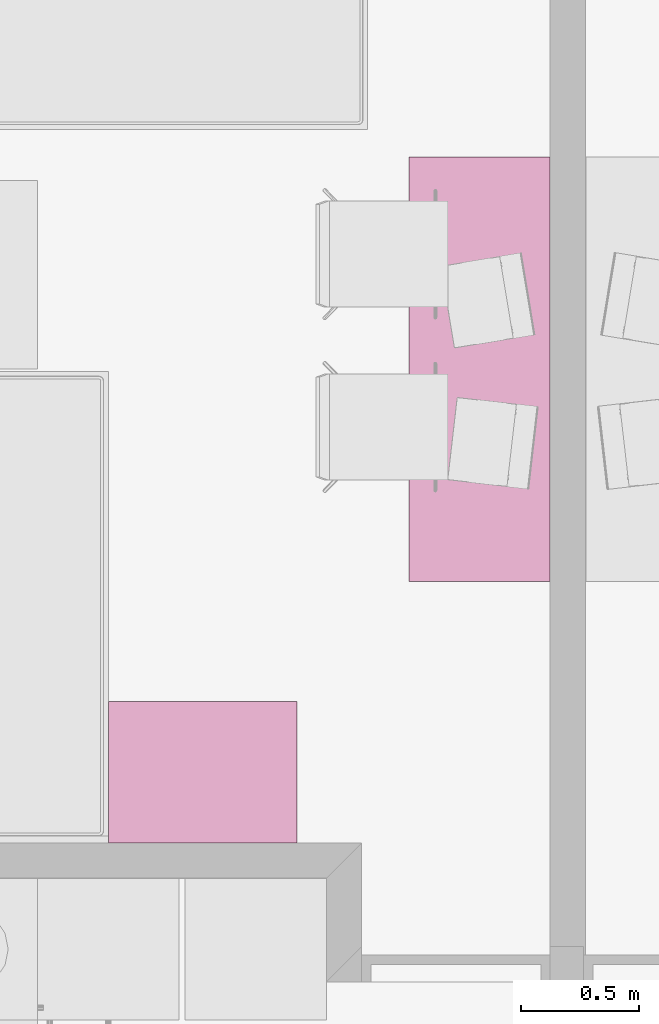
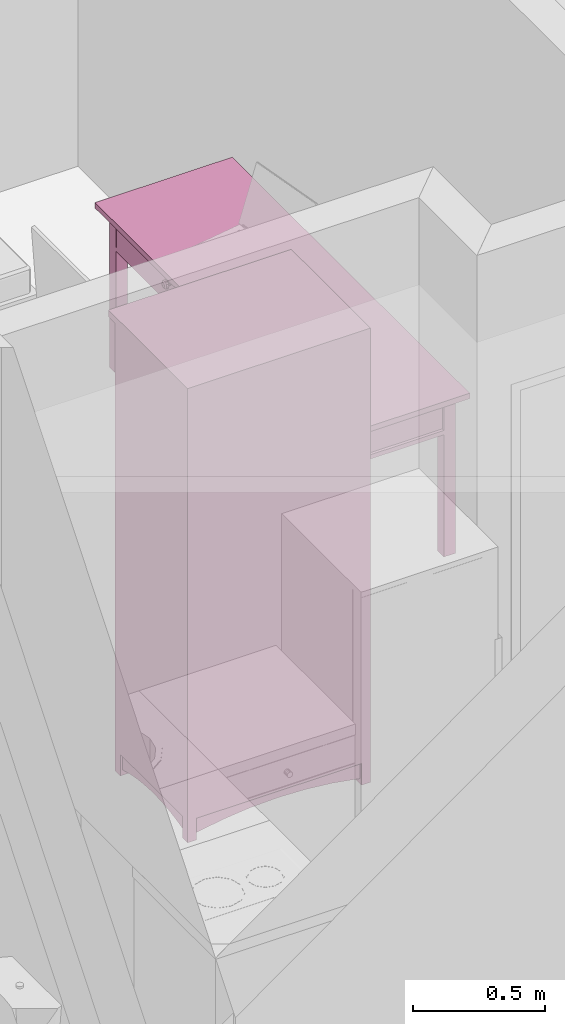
# One storey, part 143 of 172: 2 furnishings.
"""IFC2X3 building model written with IfcOpenShell, lengths in millimetres."""

from ifc_helpers import new_model, entity, si_unit, converted_unit, money_unit, direction, frame, origin_with_axes, place, context, subcontext, project, spatial, faceted_brep, source, transform, mapped, material, material_list, type_object, element, save


model = new_model("IFC2X3")

# Units and contexts
model_context = context("Model", 3, precision=1e-05, world=origin_with_axes(), true_north=direction((0.0, 1.0)))
body_context = subcontext(model_context, "Body", "Model", "MODEL_VIEW")
ifc_project = project(units=[si_unit("LENGTHUNIT", "METRE", prefix="MILLI"), si_unit("AREAUNIT", "SQUARE_METRE"), si_unit("VOLUMEUNIT", "CUBIC_METRE"), converted_unit("PLANEANGLEUNIT", "DEGREE", entity("IfcPlaneAngleMeasure", 0.0174532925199), si_unit("PLANEANGLEUNIT", "RADIAN"), dimensions=[0, 0, 0, 0, 0, 0, 0]), si_unit("SOLIDANGLEUNIT", "STERADIAN"), money_unit("USD"), converted_unit("TIMEUNIT", "Year", entity("IfcTimeMeasure", 31556926.0), si_unit("TIMEUNIT", "SECOND"), dimensions=[0, 0, 0, 0, 0, 0, 0]), si_unit("MASSUNIT", "GRAM"), si_unit("THERMODYNAMICTEMPERATUREUNIT", "DEGREE_CELSIUS"), si_unit("LUMINOUSINTENSITYUNIT", "LUMEN")], contexts=[model_context])

# Site, building, storey
site_placement = place(None, origin_with_axes())
site = spatial("IfcSite", under=ifc_project, at=site_placement, Name="Site", CompositionType="ELEMENT")
building_placement = place(site_placement, origin_with_axes())
building = spatial("IfcBuilding", under=site, at=building_placement, Name="Building", CompositionType="ELEMENT")
storey_placement = place(building_placement, frame((0.0, 0.0, 3200.0), z_axis=(0.0, 0.0, 1.0), x_axis=(1.0, 0.0, 0.0)))
storey = spatial("IfcBuildingStorey", under=building, at=storey_placement, Name="3KORRUS", CompositionType="ELEMENT", Elevation=3200.0)

# Furnishings
ifc_material = material(Name="Background")
ifc_material_list = material_list([ifc_material])
furnishing_element_type_1 = type_object("IfcFurnishingElementType", Name="Cupboard 19")
shared_shape_1 = source(origin_with_axes(), body_context, "Body", "Brep", [
    faceted_brep([(780.0, 600.0, 120.0), (780.0, 600.0, 2050.0), (780.0, 580.0, 2050.0), (780.0, 580.0, 120.0), (20.0, 600.0, 120.0), (20.0, 600.0, 2050.0), (20.0, 580.0, 2050.0), (20.0, 580.0, 120.0)], [[[0, 1, 2, 3]], [[4, 5, 1, 0]], [[1, 5, 6, 2]], [[3, 2, 6, 7]], [[0, 3, 7, 4]], [[7, 6, 5, 4]]]),
    faceted_brep([(0.0, 50.0, 100.0), (0.0, 600.0, 100.0), (20.0, 600.0, 100.0), (20.0, 50.0, 100.0), (0.0, 50.0, 2070.0), (0.0, 600.0, 2070.0), (20.0, 600.0, 2070.0), (20.0, 50.0, 2070.0)], [[[0, 1, 2, 3]], [[0, 4, 5, 1]], [[1, 5, 6, 2]], [[2, 6, 7, 3]], [[3, 7, 4, 0]], [[7, 6, 5, 4]]]),
    faceted_brep([(780.0, 50.0, 100.0), (780.0, 600.0, 100.0), (800.0, 600.0, 100.0), (800.0, 50.0, 100.0), (780.0, 50.0, 2070.0), (780.0, 600.0, 2070.0), (800.0, 600.0, 2070.0), (800.0, 50.0, 2070.0)], [[[0, 1, 2, 3]], [[0, 4, 5, 1]], [[1, 5, 6, 2]], [[2, 6, 7, 3]], [[3, 7, 4, 0]], [[7, 6, 5, 4]]]),
    faceted_brep([(20.0, 50.0, 100.0), (20.0, 600.0, 100.0), (780.0, 600.0, 100.0), (780.0, 50.0, 100.0), (20.0, 50.0, 120.0), (20.0, 600.0, 120.0), (780.0, 600.0, 120.0), (780.0, 50.0, 120.0)], [[[0, 1, 2, 3]], [[0, 4, 5, 1]], [[1, 5, 6, 2]], [[2, 6, 7, 3]], [[3, 7, 4, 0]], [[7, 6, 5, 4]]]),
    faceted_brep([(20.0, 50.0, 2050.0), (20.0, 600.0, 2050.0), (780.0, 600.0, 2050.0), (780.0, 50.0, 2050.0), (20.0, 50.0, 2070.0), (20.0, 600.0, 2070.0), (780.0, 600.0, 2070.0), (780.0, 50.0, 2070.0)], [[[0, 1, 2, 3]], [[0, 4, 5, 1]], [[1, 5, 6, 2]], [[2, 6, 7, 3]], [[3, 7, 4, 0]], [[7, 6, 5, 4]]]),
    faceted_brep([(0.0, 600.0, 2070.0), (0.0, 0.0, 2070.0), (0.0, 0.0, 2100.0), (0.0, 600.0, 2100.0), (800.0, 600.0, 2070.0), (800.0, 0.0, 2070.0), (800.0, 0.0, 2100.0), (800.0, 600.0, 2100.0)], [[[0, 1, 2, 3]], [[0, 4, 5, 1]], [[1, 5, 6, 2]], [[3, 2, 6, 7]], [[4, 0, 3, 7]], [[5, 4, 7, 6]]]),
    faceted_brep([(760.0, 590.0, 25.0), (760.0, 570.0, 25.0), (640.962, 570.0, 45.8), (640.962, 590.0, 45.8), (760.0, 590.0, 100.0), (760.0, 570.0, 100.0), (40.0, 570.0, 100.0), (40.0, 570.0, 25.0), (159.038, 570.0, 45.8), (279.23, 570.0, 58.32), (400.0, 570.0, 62.5), (520.77, 570.0, 58.32), (520.77, 590.0, 58.32), (400.0, 590.0, 62.5), (279.23, 590.0, 58.32), (159.038, 590.0, 45.8), (40.0, 590.0, 25.0), (40.0, 590.0, 100.0)], [[[0, 1, 2, 3]], [[4, 5, 1, 0]], [[1, 5, 6, 7, 8, 9, 10, 11, 2]], [[3, 2, 11, 12]], [[0, 3, 12, 13, 14, 15, 16, 17, 4]], [[17, 6, 5, 4]], [[16, 7, 6, 17]], [[15, 8, 7, 16]], [[14, 9, 8, 15]], [[13, 10, 9, 14]], [[12, 11, 10, 13]]]),
    faceted_brep([(760.0, 80.0, 25.0), (760.0, 60.0, 25.0), (640.962, 60.0, 45.8), (640.962, 80.0, 45.8), (760.0, 80.0, 100.0), (760.0, 60.0, 100.0), (40.0, 60.0, 100.0), (40.0, 60.0, 25.0), (159.038, 60.0, 45.8), (279.23, 60.0, 58.32), (400.0, 60.0, 62.5), (520.77, 60.0, 58.32), (520.77, 80.0, 58.32), (400.0, 80.0, 62.5), (279.23, 80.0, 58.32), (159.038, 80.0, 45.8), (40.0, 80.0, 25.0), (40.0, 80.0, 100.0)], [[[0, 1, 2, 3]], [[4, 5, 1, 0]], [[1, 5, 6, 7, 8, 9, 10, 11, 2]], [[3, 2, 11, 12]], [[0, 3, 12, 13, 14, 15, 16, 17, 4]], [[17, 6, 5, 4]], [[16, 7, 6, 17]], [[15, 8, 7, 16]], [[14, 9, 8, 15]], [[13, 10, 9, 14]], [[12, 11, 10, 13]]]),
    faceted_brep([(790.0, 90.0, 25.0), (770.0, 90.0, 25.0), (770.0, 141.266, 38.072), (790.0, 141.266, 38.072), (790.0, 90.0, 100.0), (770.0, 90.0, 100.0), (770.0, 560.0, 100.0), (770.0, 560.0, 25.0), (770.0, 508.734, 38.072), (770.0, 456.752, 47.92), (770.0, 404.257, 54.508), (770.0, 351.453, 57.808), (770.0, 298.547, 57.808), (770.0, 245.743, 54.508), (770.0, 193.248, 47.92), (790.0, 193.248, 47.92), (790.0, 245.743, 54.508), (790.0, 298.547, 57.808), (790.0, 351.453, 57.808), (790.0, 404.257, 54.508), (790.0, 456.752, 47.92), (790.0, 508.734, 38.072), (790.0, 560.0, 25.0), (790.0, 560.0, 100.0)], [[[0, 1, 2, 3]], [[4, 5, 1, 0]], [[1, 5, 6, 7, 8, 9, 10, 11, 12, 13, 14, 2]], [[3, 2, 14, 15]], [[0, 3, 15, 16, 17, 18, 19, 20, 21, 22, 23, 4]], [[23, 6, 5, 4]], [[22, 7, 6, 23]], [[21, 8, 7, 22]], [[20, 9, 8, 21]], [[19, 10, 9, 20]], [[18, 11, 10, 19]], [[17, 12, 11, 18]], [[16, 13, 12, 17]], [[15, 14, 13, 16]]]),
    faceted_brep([(30.0, 90.0, 25.0), (10.0, 90.0, 25.0), (10.0, 141.266, 38.072), (30.0, 141.266, 38.072), (30.0, 90.0, 100.0), (10.0, 90.0, 100.0), (10.0, 560.0, 100.0), (10.0, 560.0, 25.0), (10.0, 508.734, 38.072), (10.0, 456.752, 47.92), (10.0, 404.257, 54.508), (10.0, 351.453, 57.808), (10.0, 298.547, 57.808), (10.0, 245.743, 54.508), (10.0, 193.248, 47.92), (30.0, 193.248, 47.92), (30.0, 245.743, 54.508), (30.0, 298.547, 57.808), (30.0, 351.453, 57.808), (30.0, 404.257, 54.508), (30.0, 456.752, 47.92), (30.0, 508.734, 38.072), (30.0, 560.0, 25.0), (30.0, 560.0, 100.0)], [[[0, 1, 2, 3]], [[4, 5, 1, 0]], [[1, 5, 6, 7, 8, 9, 10, 11, 12, 13, 14, 2]], [[3, 2, 14, 15]], [[0, 3, 15, 16, 17, 18, 19, 20, 21, 22, 23, 4]], [[23, 6, 5, 4]], [[22, 7, 6, 23]], [[21, 8, 7, 22]], [[20, 9, 8, 21]], [[19, 10, 9, 20]], [[18, 11, 10, 19]], [[17, 12, 11, 18]], [[16, 13, 12, 17]], [[15, 14, 13, 16]]]),
    faceted_brep([(760.0, 560.0, 0.0), (760.0, 560.0, 100.0), (760.0, 600.0, 100.0), (760.0, 600.0, 0.0), (800.0, 560.0, 0.0), (800.0, 560.0, 100.0), (800.0, 600.0, 100.0), (800.0, 600.0, 0.0)], [[[0, 1, 2, 3]], [[4, 5, 1, 0]], [[1, 5, 6, 2]], [[3, 2, 6, 7]], [[0, 3, 7, 4]], [[7, 6, 5, 4]]]),
    faceted_brep([(0.0, 560.0, 0.0), (0.0, 560.0, 100.0), (0.0, 600.0, 100.0), (0.0, 600.0, 0.0), (40.0, 560.0, 0.0), (40.0, 560.0, 100.0), (40.0, 600.0, 100.0), (40.0, 600.0, 0.0)], [[[0, 1, 2, 3]], [[4, 5, 1, 0]], [[1, 5, 6, 2]], [[3, 2, 6, 7]], [[0, 3, 7, 4]], [[7, 6, 5, 4]]]),
    faceted_brep([(760.0, 50.0, 0.0), (760.0, 50.0, 100.0), (760.0, 90.0, 100.0), (760.0, 90.0, 0.0), (800.0, 50.0, 0.0), (800.0, 50.0, 100.0), (800.0, 90.0, 100.0), (800.0, 90.0, 0.0)], [[[0, 1, 2, 3]], [[4, 5, 1, 0]], [[1, 5, 6, 2]], [[3, 2, 6, 7]], [[0, 3, 7, 4]], [[7, 6, 5, 4]]]),
    faceted_brep([(0.0, 50.0, 0.0), (0.0, 50.0, 100.0), (0.0, 90.0, 100.0), (0.0, 90.0, 0.0), (40.0, 50.0, 0.0), (40.0, 50.0, 100.0), (40.0, 90.0, 100.0), (40.0, 90.0, 0.0)], [[[0, 1, 2, 3]], [[4, 5, 1, 0]], [[1, 5, 6, 2]], [[3, 2, 6, 7]], [[0, 3, 7, 4]], [[7, 6, 5, 4]]]),
    faceted_brep([(780.0, 580.0, 587.5), (780.0, 580.0, 607.5), (780.0, 50.0, 607.5), (780.0, 50.0, 587.5), (20.0, 580.0, 587.5), (20.0, 580.0, 607.5), (20.0, 50.0, 607.5), (20.0, 50.0, 587.5)], [[[0, 1, 2, 3]], [[4, 5, 1, 0]], [[1, 5, 6, 2]], [[3, 2, 6, 7]], [[0, 3, 7, 4]], [[7, 6, 5, 4]]]),
    faceted_brep([(780.0, 580.0, 1075.0), (780.0, 580.0, 1095.0), (780.0, 50.0, 1095.0), (780.0, 50.0, 1075.0), (20.0, 580.0, 1075.0), (20.0, 580.0, 1095.0), (20.0, 50.0, 1095.0), (20.0, 50.0, 1075.0)], [[[0, 1, 2, 3]], [[4, 5, 1, 0]], [[1, 5, 6, 2]], [[3, 2, 6, 7]], [[0, 3, 7, 4]], [[7, 6, 5, 4]]]),
    faceted_brep([(780.0, 580.0, 1562.5), (780.0, 580.0, 1582.5), (780.0, 50.0, 1582.5), (780.0, 50.0, 1562.5), (20.0, 580.0, 1562.5), (20.0, 580.0, 1582.5), (20.0, 50.0, 1582.5), (20.0, 50.0, 1562.5)], [[[0, 1, 2, 3]], [[4, 5, 1, 0]], [[1, 5, 6, 2]], [[3, 2, 6, 7]], [[0, 3, 7, 4]], [[7, 6, 5, 4]]]),
    faceted_brep([(789.5, 50.0, 110.5), (400.5, 50.0, 110.5), (400.5, 50.0, 2059.5), (789.5, 50.0, 2059.5), (789.5, 40.0, 110.5), (400.5, 40.0, 110.5), (400.5, 40.0, 2059.5), (789.5, 40.0, 2059.5), (779.5, 30.0, 120.5), (410.5, 30.0, 120.5), (410.5, 30.0, 2049.5), (779.5, 30.0, 2049.5)], [[[0, 1, 2, 3]], [[0, 4, 5, 1]], [[1, 5, 6, 2]], [[2, 6, 7, 3]], [[3, 7, 4, 0]], [[4, 8, 9, 5]], [[5, 9, 10, 6]], [[6, 10, 11, 7]], [[7, 11, 8, 4]], [[10, 9, 8, 11]]]),
    faceted_brep([(399.5, 50.0, 110.5), (10.5, 50.0, 110.5), (10.5, 50.0, 2059.5), (399.5, 50.0, 2059.5), (399.5, 40.0, 110.5), (10.5, 40.0, 110.5), (10.5, 40.0, 2059.5), (399.5, 40.0, 2059.5), (389.5, 30.0, 120.5), (20.5, 30.0, 120.5), (20.5, 30.0, 2049.5), (389.5, 30.0, 2049.5)], [[[0, 1, 2, 3]], [[0, 4, 5, 1]], [[1, 5, 6, 2]], [[2, 6, 7, 3]], [[3, 7, 4, 0]], [[4, 8, 9, 5]], [[5, 9, 10, 6]], [[6, 10, 11, 7]], [[7, 11, 8, 4]], [[10, 9, 8, 11]]]),
    faceted_brep([(339.608, 30.0, 954.0), (338.0, 30.0, 960.0), (339.608, 30.0, 966.0), (344.0, 30.0, 970.392), (350.0, 30.0, 972.0), (356.0, 30.0, 970.392), (360.392, 30.0, 966.0), (362.0, 30.0, 960.0), (360.392, 30.0, 954.0), (356.0, 30.0, 949.608), (350.0, 30.0, 948.0), (344.0, 30.0, 949.608), (339.608, 5.0, 954.0), (338.0, 5.0, 960.0), (339.608, 5.0, 966.0), (344.0, 5.0, 970.392), (350.0, 5.0, 972.0), (356.0, 5.0, 970.392), (360.392, 5.0, 966.0), (362.0, 5.0, 960.0), (360.392, 5.0, 954.0), (356.0, 5.0, 949.608), (350.0, 5.0, 948.0), (344.0, 5.0, 949.608)], [[[0, 1, 2, 3, 4, 5, 6, 7, 8, 9, 10, 11]], [[0, 12, 13, 1]], [[1, 13, 14, 2]], [[2, 14, 15, 3]], [[3, 15, 16, 4]], [[4, 16, 17, 5]], [[5, 17, 18, 6]], [[6, 18, 19, 7]], [[7, 19, 20, 8]], [[8, 20, 21, 9]], [[9, 21, 22, 10]], [[10, 22, 23, 11]], [[11, 23, 12, 0]], [[12, 23, 22, 21, 20, 19, 18, 17, 16, 15, 14, 13]]]),
    faceted_brep([(460.392, 30.0, 954.0), (456.0, 30.0, 949.608), (450.0, 30.0, 948.0), (444.0, 30.0, 949.608), (439.608, 30.0, 954.0), (438.0, 30.0, 960.0), (439.608, 30.0, 966.0), (444.0, 30.0, 970.392), (450.0, 30.0, 972.0), (456.0, 30.0, 970.392), (460.392, 30.0, 966.0), (462.0, 30.0, 960.0), (460.392, 5.0, 954.0), (456.0, 5.0, 949.608), (450.0, 5.0, 948.0), (444.0, 5.0, 949.608), (439.608, 5.0, 954.0), (438.0, 5.0, 960.0), (439.608, 5.0, 966.0), (444.0, 5.0, 970.392), (450.0, 5.0, 972.0), (456.0, 5.0, 970.392), (460.392, 5.0, 966.0), (462.0, 5.0, 960.0)], [[[0, 1, 2, 3, 4, 5, 6, 7, 8, 9, 10, 11]], [[1, 0, 12, 13]], [[2, 1, 13, 14]], [[3, 2, 14, 15]], [[4, 3, 15, 16]], [[5, 4, 16, 17]], [[6, 5, 17, 18]], [[7, 6, 18, 19]], [[8, 7, 19, 20]], [[9, 8, 20, 21]], [[10, 9, 21, 22]], [[11, 10, 22, 23]], [[0, 11, 23, 12]], [[12, 23, 22, 21, 20, 19, 18, 17, 16, 15, 14, 13]]]),
])
furnishing_1_placement = place(storey_placement, frame((7709.70329669, -8616.37850445, 0.0), z_axis=(0.0, 0.0, 1.0), x_axis=(-1.0, 0.0, 0.0)))
element("IfcFurnishingElement", 1, at=furnishing_1_placement, inside=storey, type_object=furnishing_element_type_1, material=ifc_material_list, Name="FU - 014", context=body_context, shape_type="MappedRepresentation", body=[
    mapped(shared_shape_1, transform((0.0, 0.0, 0.0))),
])
furnishing_element_type_2 = type_object("IfcFurnishingElementType", Name="Rectangular Table 01 19")
shared_shape_2 = source(origin_with_axes(), body_context, "Body", "Brep", [
    faceted_brep([(90.0, 40.0, 0.0), (40.0, 40.0, 0.0), (40.0, 90.0, 0.0), (90.0, 90.0, 0.0), (90.0, 40.0, 725.0), (40.0, 40.0, 725.0), (40.0, 90.0, 725.0), (90.0, 90.0, 725.0)], [[[0, 1, 2, 3]], [[1, 0, 4, 5]], [[2, 1, 5, 6]], [[3, 2, 6, 7]], [[0, 3, 7, 4]], [[5, 4, 7, 6]]]),
    faceted_brep([(1760.0, 40.0, 0.0), (1710.0, 40.0, 0.0), (1710.0, 90.0, 0.0), (1760.0, 90.0, 0.0), (1760.0, 40.0, 725.0), (1710.0, 40.0, 725.0), (1710.0, 90.0, 725.0), (1760.0, 90.0, 725.0)], [[[0, 1, 2, 3]], [[1, 0, 4, 5]], [[2, 1, 5, 6]], [[3, 2, 6, 7]], [[0, 3, 7, 4]], [[5, 4, 7, 6]]]),
    faceted_brep([(90.0, 510.0, 0.0), (40.0, 510.0, 0.0), (40.0, 560.0, 0.0), (90.0, 560.0, 0.0), (90.0, 510.0, 725.0), (40.0, 510.0, 725.0), (40.0, 560.0, 725.0), (90.0, 560.0, 725.0)], [[[0, 1, 2, 3]], [[1, 0, 4, 5]], [[2, 1, 5, 6]], [[3, 2, 6, 7]], [[0, 3, 7, 4]], [[5, 4, 7, 6]]]),
    faceted_brep([(1760.0, 510.0, 0.0), (1710.0, 510.0, 0.0), (1710.0, 560.0, 0.0), (1760.0, 560.0, 0.0), (1760.0, 510.0, 725.0), (1710.0, 510.0, 725.0), (1710.0, 560.0, 725.0), (1760.0, 560.0, 725.0)], [[[0, 1, 2, 3]], [[1, 0, 4, 5]], [[2, 1, 5, 6]], [[3, 2, 6, 7]], [[0, 3, 7, 4]], [[5, 4, 7, 6]]]),
    faceted_brep([(1760.0, 40.0, 565.0), (40.0, 40.0, 565.0), (40.0, 560.0, 565.0), (1760.0, 560.0, 565.0), (1760.0, 40.0, 585.0), (40.0, 40.0, 585.0), (40.0, 560.0, 585.0), (1760.0, 560.0, 585.0)], [[[0, 1, 2, 3]], [[1, 0, 4, 5]], [[2, 1, 5, 6]], [[3, 2, 6, 7]], [[0, 3, 7, 4]], [[5, 4, 7, 6]]]),
    faceted_brep([(1710.0, 52.5, 585.0), (90.0, 52.5, 585.0), (90.0, 77.5, 585.0), (1710.0, 77.5, 585.0), (1710.0, 52.5, 745.0), (90.0, 52.5, 745.0), (90.0, 77.5, 745.0), (1710.0, 77.5, 745.0)], [[[0, 1, 2, 3]], [[1, 0, 4, 5]], [[2, 1, 5, 6]], [[3, 2, 6, 7]], [[0, 3, 7, 4]], [[5, 4, 7, 6]]]),
    faceted_brep([(77.5, 90.0, 585.0), (52.5, 90.0, 585.0), (52.5, 510.0, 585.0), (77.5, 510.0, 585.0), (77.5, 90.0, 745.0), (52.5, 90.0, 745.0), (52.5, 510.0, 745.0), (77.5, 510.0, 745.0)], [[[0, 1, 2, 3]], [[1, 0, 4, 5]], [[2, 1, 5, 6]], [[3, 2, 6, 7]], [[0, 3, 7, 4]], [[5, 4, 7, 6]]]),
    faceted_brep([(90.0, 547.5, 585.0), (1710.0, 547.5, 585.0), (1710.0, 522.5, 585.0), (90.0, 522.5, 585.0), (90.0, 547.5, 745.0), (1710.0, 547.5, 745.0), (1710.0, 522.5, 745.0), (90.0, 522.5, 745.0)], [[[0, 1, 2, 3]], [[1, 0, 4, 5]], [[2, 1, 5, 6]], [[3, 2, 6, 7]], [[0, 3, 7, 4]], [[5, 4, 7, 6]]]),
    faceted_brep([(1722.5, 510.0, 585.0), (1747.5, 510.0, 585.0), (1747.5, 90.0, 585.0), (1722.5, 90.0, 585.0), (1722.5, 510.0, 745.0), (1747.5, 510.0, 745.0), (1747.5, 90.0, 745.0), (1722.5, 90.0, 745.0)], [[[0, 1, 2, 3]], [[1, 0, 4, 5]], [[2, 1, 5, 6]], [[3, 2, 6, 7]], [[0, 3, 7, 4]], [[5, 4, 7, 6]]]),
    faceted_brep([(897.5, 40.0, 585.0), (95.0, 40.0, 585.0), (95.0, 60.0, 585.0), (897.5, 60.0, 585.0), (897.5, 40.0, 745.0), (95.0, 40.0, 745.0), (95.0, 60.0, 745.0), (897.5, 60.0, 745.0)], [[[0, 1, 2, 3]], [[1, 0, 4, 5]], [[2, 1, 5, 6]], [[3, 2, 6, 7]], [[0, 3, 7, 4]], [[5, 4, 7, 6]]]),
    faceted_brep([(1705.0, 40.0, 585.0), (902.5, 40.0, 585.0), (902.5, 60.0, 585.0), (1705.0, 60.0, 585.0), (1705.0, 40.0, 745.0), (902.5, 40.0, 745.0), (902.5, 60.0, 745.0), (1705.0, 60.0, 745.0)], [[[0, 1, 2, 3]], [[1, 0, 4, 5]], [[2, 1, 5, 6]], [[3, 2, 6, 7]], [[0, 3, 7, 4]], [[5, 4, 7, 6]]]),
    faceted_brep([(504.91, 40.0, 660.0), (501.25, 40.0, 656.34), (496.25, 40.0, 655.0), (491.25, 40.0, 656.34), (487.59, 40.0, 660.0), (486.25, 40.0, 665.0), (487.59, 40.0, 670.0), (491.25, 40.0, 673.66), (496.25, 40.0, 675.0), (501.25, 40.0, 673.66), (504.91, 40.0, 670.0), (506.25, 40.0, 665.0), (504.91, 25.0, 660.0), (501.25, 25.0, 656.34), (496.25, 25.0, 655.0), (491.25, 25.0, 656.34), (487.59, 25.0, 660.0), (486.25, 25.0, 665.0), (487.59, 25.0, 670.0), (491.25, 25.0, 673.66), (496.25, 25.0, 675.0), (501.25, 25.0, 673.66), (504.91, 25.0, 670.0), (506.25, 25.0, 665.0)], [[[0, 1, 2, 3, 4, 5, 6, 7, 8, 9, 10, 11]], [[1, 0, 12, 13]], [[2, 1, 13, 14]], [[3, 2, 14, 15]], [[4, 3, 15, 16]], [[5, 4, 16, 17]], [[6, 5, 17, 18]], [[7, 6, 18, 19]], [[8, 7, 19, 20]], [[9, 8, 20, 21]], [[10, 9, 21, 22]], [[11, 10, 22, 23]], [[0, 11, 23, 12]], [[12, 23, 22, 21, 20, 19, 18, 17, 16, 15, 14, 13]]]),
    faceted_brep([(506.25, 12.01, 665.0), (496.25, 10.0, 665.0), (504.91, 12.01, 660.0), (504.91, 12.01, 670.0), (501.25, 12.01, 656.34), (513.571, 17.5, 665.0), (511.25, 17.5, 656.34), (501.25, 12.01, 673.66), (511.25, 17.5, 673.66), (496.25, 12.01, 655.0), (504.91, 17.5, 650.0), (516.25, 25.0, 665.0), (513.571, 25.0, 655.0), (496.25, 12.01, 675.0), (504.91, 17.5, 680.0), (513.571, 25.0, 675.0), (491.25, 12.01, 656.34), (496.25, 17.5, 647.679), (506.25, 25.0, 647.679), (496.25, 25.0, 645.0), (486.25, 25.0, 647.679), (478.929, 25.0, 655.0), (476.25, 25.0, 665.0), (478.929, 25.0, 675.0), (486.25, 25.0, 682.321), (496.25, 25.0, 685.0), (506.25, 25.0, 682.321), (491.25, 12.01, 673.66), (496.25, 17.5, 682.321), (487.59, 12.01, 660.0), (487.59, 17.5, 650.0), (481.25, 17.5, 656.34), (478.929, 17.5, 665.0), (481.25, 17.5, 673.66), (487.59, 17.5, 680.0), (487.59, 12.01, 670.0), (486.25, 12.01, 665.0)], [[[0, 1, 2]], [[3, 1, 0]], [[2, 1, 4]], [[5, 0, 2, 6]], [[7, 1, 3]], [[8, 3, 0, 5]], [[4, 1, 9]], [[6, 2, 4, 10]], [[11, 5, 6, 12]], [[13, 1, 7]], [[14, 7, 3, 8]], [[15, 8, 5, 11]], [[9, 1, 16]], [[10, 4, 9, 17]], [[12, 6, 10, 18]], [[12, 18, 19, 20, 21, 22, 23, 24, 25, 26, 15, 11]], [[27, 1, 13]], [[28, 13, 7, 14]], [[26, 14, 8, 15]], [[16, 1, 29]], [[17, 9, 16, 30]], [[18, 10, 17, 19]], [[19, 17, 30, 20]], [[20, 30, 31, 21]], [[21, 31, 32, 22]], [[22, 32, 33, 23]], [[23, 33, 34, 24]], [[24, 34, 28, 25]], [[25, 28, 14, 26]], [[35, 1, 27]], [[34, 27, 13, 28]], [[29, 1, 36]], [[30, 16, 29, 31]], [[31, 29, 36, 32]], [[32, 36, 35, 33]], [[33, 35, 27, 34]], [[36, 1, 35]]]),
    faceted_brep([(1312.41, 40.0, 660.0), (1308.75, 40.0, 656.34), (1303.75, 40.0, 655.0), (1298.75, 40.0, 656.34), (1295.09, 40.0, 660.0), (1293.75, 40.0, 665.0), (1295.09, 40.0, 670.0), (1298.75, 40.0, 673.66), (1303.75, 40.0, 675.0), (1308.75, 40.0, 673.66), (1312.41, 40.0, 670.0), (1313.75, 40.0, 665.0), (1312.41, 25.0, 660.0), (1308.75, 25.0, 656.34), (1303.75, 25.0, 655.0), (1298.75, 25.0, 656.34), (1295.09, 25.0, 660.0), (1293.75, 25.0, 665.0), (1295.09, 25.0, 670.0), (1298.75, 25.0, 673.66), (1303.75, 25.0, 675.0), (1308.75, 25.0, 673.66), (1312.41, 25.0, 670.0), (1313.75, 25.0, 665.0)], [[[0, 1, 2, 3, 4, 5, 6, 7, 8, 9, 10, 11]], [[1, 0, 12, 13]], [[2, 1, 13, 14]], [[3, 2, 14, 15]], [[4, 3, 15, 16]], [[5, 4, 16, 17]], [[6, 5, 17, 18]], [[7, 6, 18, 19]], [[8, 7, 19, 20]], [[9, 8, 20, 21]], [[10, 9, 21, 22]], [[11, 10, 22, 23]], [[0, 11, 23, 12]], [[12, 23, 22, 21, 20, 19, 18, 17, 16, 15, 14, 13]]]),
    faceted_brep([(1313.75, 12.01, 665.0), (1303.75, 10.0, 665.0), (1312.41, 12.01, 660.0), (1312.41, 12.01, 670.0), (1308.75, 12.01, 656.34), (1321.071, 17.5, 665.0), (1318.75, 17.5, 656.34), (1308.75, 12.01, 673.66), (1318.75, 17.5, 673.66), (1303.75, 12.01, 655.0), (1312.41, 17.5, 650.0), (1323.75, 25.0, 665.0), (1321.071, 25.0, 655.0), (1303.75, 12.01, 675.0), (1312.41, 17.5, 680.0), (1321.071, 25.0, 675.0), (1298.75, 12.01, 656.34), (1303.75, 17.5, 647.679), (1313.75, 25.0, 647.679), (1303.75, 25.0, 645.0), (1293.75, 25.0, 647.679), (1286.429, 25.0, 655.0), (1283.75, 25.0, 665.0), (1286.429, 25.0, 675.0), (1293.75, 25.0, 682.321), (1303.75, 25.0, 685.0), (1313.75, 25.0, 682.321), (1298.75, 12.01, 673.66), (1303.75, 17.5, 682.321), (1295.09, 12.01, 660.0), (1295.09, 17.5, 650.0), (1288.75, 17.5, 656.34), (1286.429, 17.5, 665.0), (1288.75, 17.5, 673.66), (1295.09, 17.5, 680.0), (1295.09, 12.01, 670.0), (1293.75, 12.01, 665.0)], [[[0, 1, 2]], [[3, 1, 0]], [[2, 1, 4]], [[5, 0, 2, 6]], [[7, 1, 3]], [[8, 3, 0, 5]], [[4, 1, 9]], [[6, 2, 4, 10]], [[11, 5, 6, 12]], [[13, 1, 7]], [[14, 7, 3, 8]], [[15, 8, 5, 11]], [[9, 1, 16]], [[10, 4, 9, 17]], [[12, 6, 10, 18]], [[12, 18, 19, 20, 21, 22, 23, 24, 25, 26, 15, 11]], [[27, 1, 13]], [[28, 13, 7, 14]], [[26, 14, 8, 15]], [[16, 1, 29]], [[17, 9, 16, 30]], [[18, 10, 17, 19]], [[19, 17, 30, 20]], [[20, 30, 31, 21]], [[21, 31, 32, 22]], [[22, 32, 33, 23]], [[23, 33, 34, 24]], [[24, 34, 28, 25]], [[25, 28, 14, 26]], [[35, 1, 27]], [[34, 27, 13, 28]], [[29, 1, 36]], [[30, 16, 29, 31]], [[31, 29, 36, 32]], [[32, 36, 35, 33]], [[33, 35, 27, 34]], [[36, 1, 35]]]),
    faceted_brep([(1800.0, 0.0, 725.0), (0.0, 0.0, 725.0), (0.0, 600.0, 725.0), (1800.0, 600.0, 725.0), (1800.0, 0.0, 750.0), (0.0, 0.0, 750.0), (0.0, 600.0, 750.0), (1800.0, 600.0, 750.0)], [[[0, 1, 2, 3]], [[1, 0, 4, 5]], [[2, 1, 5, 6]], [[3, 2, 6, 7]], [[0, 3, 7, 4]], [[5, 4, 7, 6]]]),
])
furnishing_2_placement = place(storey_placement, frame((8184.2564771, -6307.26955348, 0.0), z_axis=(0.0, 0.0, 1.0), x_axis=(0.0, -1.0, 0.0)))
element("IfcFurnishingElement", 2, at=furnishing_2_placement, inside=storey, type_object=furnishing_element_type_2, material=ifc_material_list, Name="FU - 011", context=body_context, shape_type="MappedRepresentation", body=[
    mapped(shared_shape_2, transform((0.0, 0.0, 0.0))),
])

save(model, "model.ifc")
